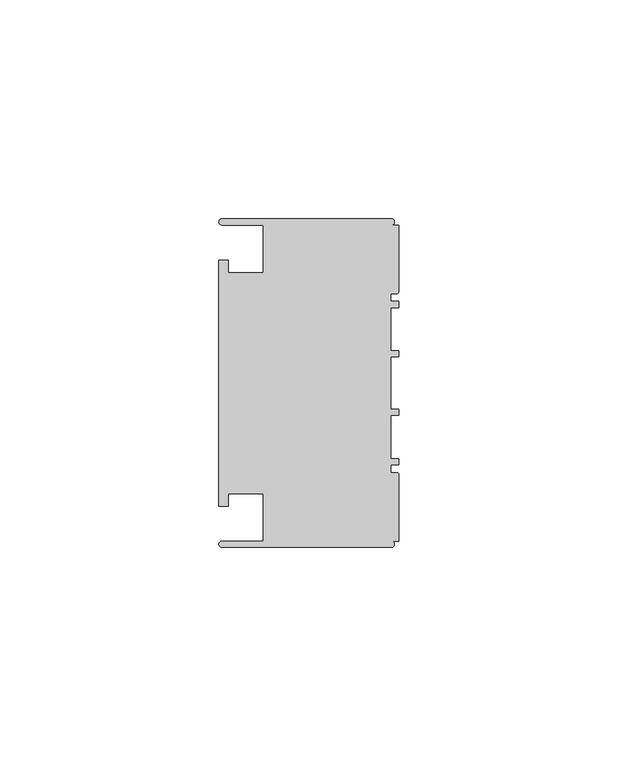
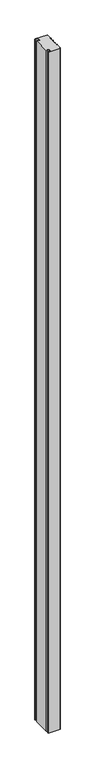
"""IFC4 building model written with IfcOpenShell, lengths in millimetres: member geometry, Прямоугольный импост : 3-AMG-2-Профиль 40Х75 Низ Л."""

from ifc_helpers import new_model, si_unit, point, frame, frame_2d, origin, place, context, project, spatial, polyline, circle_curve, trimmed, segment, composite_curve, outline, extrude, source, transform, mapped, element, save


def member_3e5a0c3d(model_context):
    return source(origin(), model_context, "Body", "SweptSolid", [
        extrude(outline(composite_curve([segment(polyline([(-1.7, -37.5), (-40.4, -37.5)]), True, "CONTINUOUS"), segment(trimmed(circle_curve(frame_2d((-40.4, -36.8)), 0.7), [point((-40.4, -37.5))], [point((-40.4, -36.1))], False, "CARTESIAN"), True, "CONTINUOUS"), segment(polyline([(-40.4, -36.1), (-31.0, -36.1), (-31.0, -25.25), (-39.0, -25.25), (-39.0, -28.1), (-41.1, -28.1), (-41.1, 28.1), (-39.0, 28.1), (-39.0, 25.25), (-31.0, 25.25), (-31.0, 36.1), (-40.4, 36.1)]), True, "CONTINUOUS"), segment(trimmed(circle_curve(frame_2d((-40.4, 36.8)), 0.7), [point((-40.4, 36.1))], [point((-40.4, 37.5))], False, "CARTESIAN"), True, "CONTINUOUS"), segment(polyline([(-40.4, 37.5), (-1.7, 37.5)]), True, "CONTINUOUS"), segment(trimmed(circle_curve(frame_2d((-1.7, 36.8)), 0.7), [point((-1.7, 37.5))], [point((-1.7, 36.1))], False, "CARTESIAN"), True, "CONTINUOUS"), segment(polyline([(-1.7, 36.1), (0.0, 36.1), (0.0, 20.95)]), True, "CONTINUOUS"), segment(trimmed(circle_curve(frame_2d((-0.5, 20.95)), 0.5), [point((0.0, 20.95))], [point((-0.5, 20.45))], False, "CARTESIAN"), True, "CONTINUOUS"), segment(polyline([(-0.5, 20.45), (-1.8, 20.45), (-1.8, 18.65), (0.0, 18.65), (0.0, 17.25), (-1.8, 17.25), (-1.8, 7.4), (0.0, 7.4), (0.0, 6.0), (-1.8, 6.0), (-1.8, -6.0), (0.0, -6.0), (0.0, -7.4), (-1.8, -7.4), (-1.8, -17.25), (0.0, -17.25), (0.0, -18.65), (-1.8, -18.65), (-1.8, -20.45), (-0.5, -20.45)]), True, "CONTINUOUS"), segment(trimmed(circle_curve(frame_2d((-0.5, -20.95)), 0.5), [point((-0.5, -20.45))], [point((0.0, -20.95))], False, "CARTESIAN"), True, "CONTINUOUS"), segment(polyline([(0.0, -20.95), (0.0, -36.1), (-1.7, -36.1)]), True, "CONTINUOUS"), segment(trimmed(circle_curve(frame_2d((-1.7, -36.8)), 0.7), [point((-1.7, -36.1))], [point((-1.7, -37.5))], False, "CARTESIAN"), True, "CONTINUOUS")], self_intersect=False)), frame((0.0, 0.0, -2357.717384), z_axis=(0.0, 0.0, 1.0), x_axis=(1.0, 0.0, 0.0)), (0.0, 0.0, 1.0), 2357.717384),
    ])


if __name__ == "__main__":
    model = new_model("IFC4")
    model_context = context("Model", 3, world=origin())
    ifc_project = project(units=[si_unit("LENGTHUNIT", "METRE", prefix="MILLI")], contexts=[model_context])
    site = spatial("IfcSite", under=ifc_project)
    building = spatial("IfcBuilding", under=site)
    placement = place(None, origin())
    member_shape = member_3e5a0c3d(model_context)
    element("IfcMember", 1, ObjectType="Прямоугольный импост : 3-AMG-2-Профиль 40Х75 Низ Л", at=placement, inside=building, context=model_context, shape_type="MappedRepresentation", body=[
        mapped(member_shape, transform((0.0, 0.0, 0.0), x_axis=(1.0, 0.0, 0.0), y_axis=(0.0, 1.0, 0.0), z_axis=(0.0, 0.0, 1.0))),
    ])
    save(model, "model.ifc")
